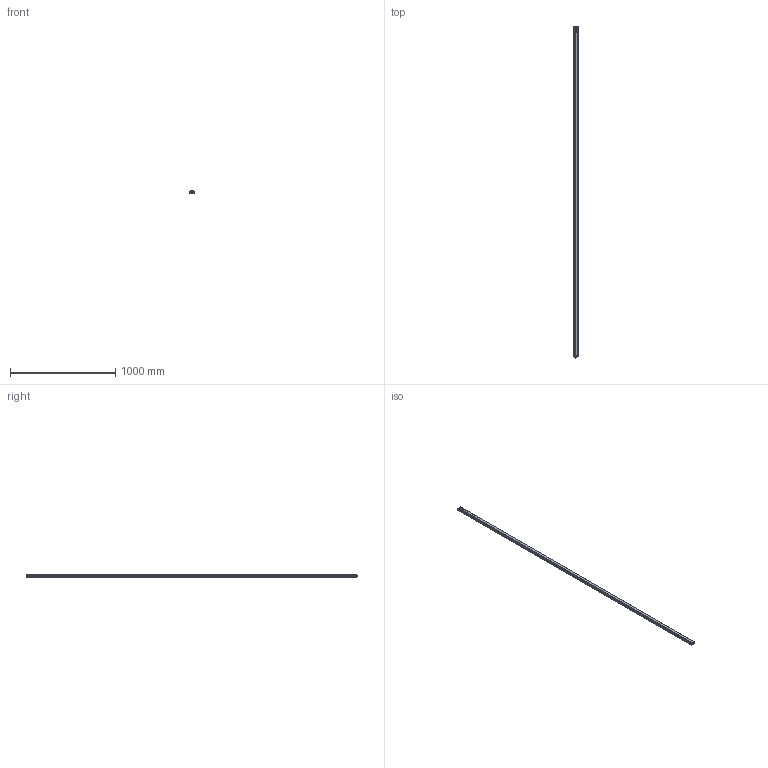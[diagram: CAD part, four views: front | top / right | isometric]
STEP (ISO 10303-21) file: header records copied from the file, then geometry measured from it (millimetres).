
FILE_DESCRIPTION(/* description */ (''),/* implementation_level */ '2;1');
FILE_NAME(/* name */ 'C:\Users\andre\SynologyDrive\Optoscan\Libreria Componenti\00 - Barriere\Barriera sorgente\Argo_3120_TX.stp',/* time_stamp */ '2021-04-23T12:47:39+02:00',/* author */ ('andre'),/* organization */ (''),/* preprocessor_version */ 'ST-DEVELOPER v18',/* originating_system */ 'Autodesk Inventor 2020',/* authorisation */ '');
FILE_SCHEMA (('AUTOMOTIVE_DESIGN { 1 0 10303 214 3 1 1 }'));
Length unit declared in the file: millimetre
Products named in the file (1): Argo_3120_TX
Bounding box: 40.5 x 3153.3 x 20.75 mm (x, y, z)
Volume: 618536.4 mm3; surface area: 818245.2 mm2
Topology: 1 solids, 1 shells, 680 faces, 1867 edges, 1193 vertices
Faces by surface type: plane 317, cylinder 191, bspline 94, torus 64, cone 8, sphere 6
Full cylindrical faces by diameter (mm): 1 x4, 2.5 x4, 3 x4, 3.5 x4, 5.5 x4, 8 x1, 10.5 x2, 11.75 x9, 15.7 x1, 17.5 x1
Entity records: 30188 total; most frequent: CARTESIAN_POINT 12578, ORIENTED_EDGE 3718, DIRECTION 3299, EDGE_CURVE 1859, VERTEX_POINT 1193, AXIS2_PLACEMENT_3D 1137, LINE 1025, VECTOR 1025
